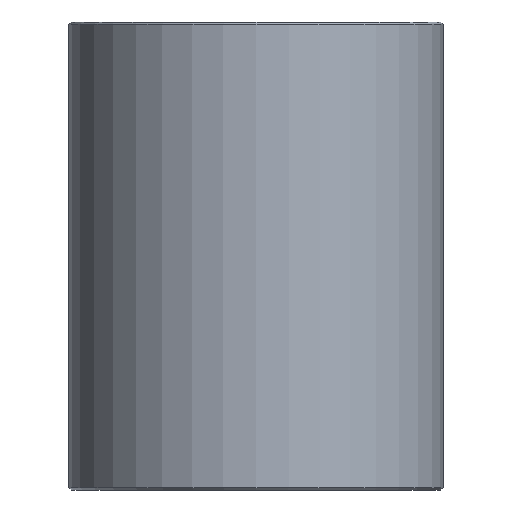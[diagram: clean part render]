
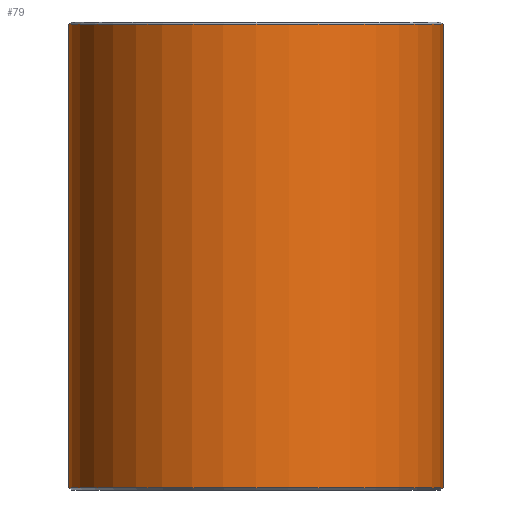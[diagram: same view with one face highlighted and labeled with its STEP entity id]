
A CAD part, front view. The second image highlights one B-rep face of the part: STEP entity #79.
In plain terms, the highlighted cylindrical face has radius 16 mm (diameter 32 mm), a full revolution.
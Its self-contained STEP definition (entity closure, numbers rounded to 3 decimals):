
#79=ADVANCED_FACE('',(#96,#97),#98,.T.);
#96=FACE_OUTER_BOUND('',#120,.T.);
#97=FACE_OUTER_BOUND('',#121,.T.);
#98=CYLINDRICAL_SURFACE('',#122,16.0);
#120=EDGE_LOOP('',(#152));
#121=EDGE_LOOP('',(#153));
#122=AXIS2_PLACEMENT_3D('',#154,#155,#156);
#152=ORIENTED_EDGE('',*,*,#178,.T.);
#153=ORIENTED_EDGE('',*,*,#177,.T.);
#154=CARTESIAN_POINT('',(0.0,0.0,40.0));
#155=DIRECTION('',(0.0,0.0,-1.0));
#156=DIRECTION('',(-1.0,0.0,0.0));
#177=EDGE_CURVE('',#190,#190,#191,.T.);
#178=EDGE_CURVE('',#192,#192,#193,.F.);
#190=VERTEX_POINT('',#206);
#191=CIRCLE('',#207,16.0);
#192=VERTEX_POINT('',#208);
#193=CIRCLE('',#209,16.0);
#206=CARTESIAN_POINT('',(16.0,0.0,0.2));
#207=AXIS2_PLACEMENT_3D('',#227,#228,#229);
#208=CARTESIAN_POINT('',(16.0,0.,39.8));
#209=AXIS2_PLACEMENT_3D('',#230,#231,#232);
#227=CARTESIAN_POINT('',(0.0,0.0,0.2));
#228=DIRECTION('',(0.0,0.0,1.0));
#229=DIRECTION('',(1.0,0.0,0.0));
#230=CARTESIAN_POINT('',(0.0,0.0,39.8));
#231=DIRECTION('',(0.0,0.0,1.0));
#232=DIRECTION('',(1.0,0.0,0.0));
